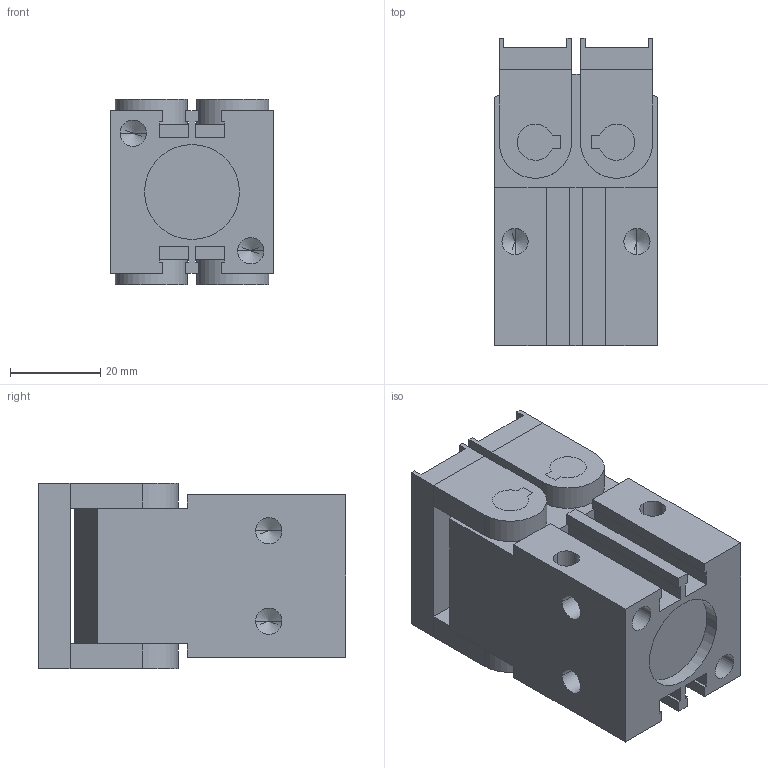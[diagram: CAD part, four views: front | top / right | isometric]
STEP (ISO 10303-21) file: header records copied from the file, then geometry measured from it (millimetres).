
FILE_DESCRIPTION (( 'STEP AP203' ), '1' );
FILE_NAME ('GHK 20 close.STEP', '2013-03-04T09:46:20', ( 'Conseil Régional Haute-Normandie' ), ( 'Conseil Régional Haute-Normandie' ), 'SwSTEP 2.0', 'SolidWorks 2010', '' );
FILE_SCHEMA (( 'CONFIG_CONTROL_DESIGN' ));
Length unit declared in the file: millimetre
Products named in the file (5): GHK 20 close; Pièce1   GHK_Default; Pièce5 GHK20_Default; Pièce6  GHK20_Default; Pièce4 GHK20_Default
Assembly tree (9 placements, depth 2):
  GHK 20 close
    Pièce4 GHK20_Default  x2
    Pièce6  GHK20_Default  x2
    Pièce5 GHK20_Default  x4
    Pièce1   GHK_Default
Bounding box: 36 x 68 x 41 mm (x, y, z)
Volume: 76662.4 mm3; surface area: 25695 mm2
Topology: 9 solids, 9 shells, 277 faces, 686 edges, 438 vertices
Faces by surface type: plane 189, cylinder 68, cone 20
Entity records: 5842 total; most frequent: DIRECTION 899, CARTESIAN_POINT 899, ORIENTED_EDGE 858, EDGE_CURVE 429, VECTOR 339, LINE 339, VERTEX_POINT 280, AXIS2_PLACEMENT_3D 280
